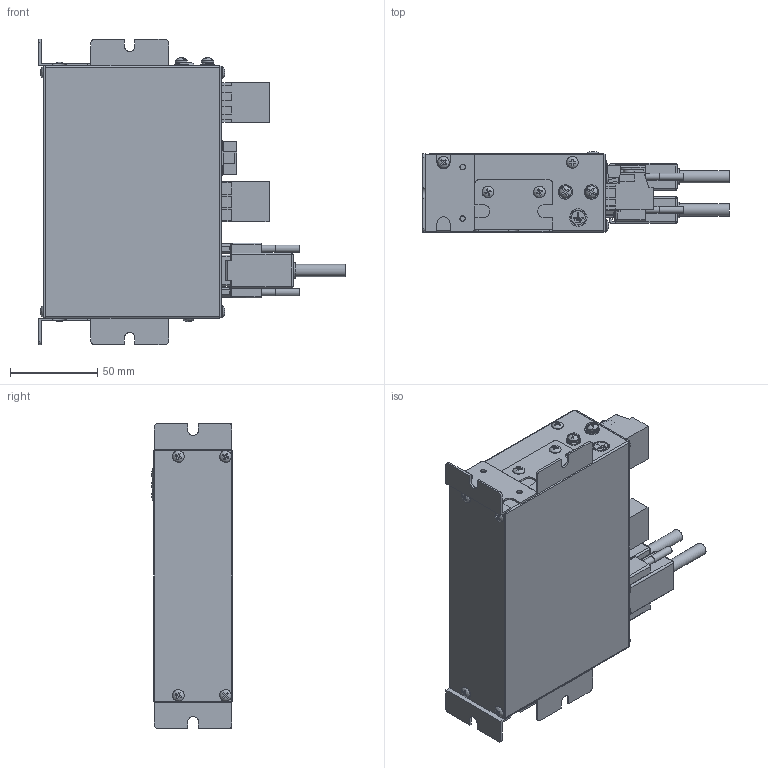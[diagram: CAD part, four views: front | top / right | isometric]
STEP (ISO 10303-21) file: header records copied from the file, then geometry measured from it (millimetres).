
FILE_DESCRIPTION (( 'STEP AP203' ), '1' );
FILE_NAME ('3D-01EV-000.STEP', '2017-05-10T06:05:00', ( '' ), ( '' ), 'SwSTEP 2.0', 'SolidWorks 2016', '' );
FILE_SCHEMA (( 'CONFIG_CONTROL_DESIGN' ));
Products named in the file (1): 3D-01EV-000
Bounding box: 175.77 x 46.28 x 175.2 mm (x, y, z)
Volume: 719760.4 mm3; surface area: 98019.6 mm2
Topology: 5 solids, 83 shells, 3085 faces, 7907 edges, 5234 vertices
Faces by surface type: plane 2244, bspline 427, cylinder 374, torus 27, sphere 13
Full cylindrical faces by diameter (mm): 0.99 x5, 1 x19, 1.09 x14, 1.1 x10, 2 x20, 2.3 x4, 2.5 x4, 2.84 x4, 3 x10, 3.1 x4, 3.2 x8, 3.3 x8, 3.6 x3, 3.7 x3, 4 x4, 4.2 x4, 4.3 x2, 4.5 x1, 4.6 x4, 5.195 x6, 5.25 x3, 5.3 x3, 6.454 x6, 6.5 x3, 7 x4, 8 x1, 8.2 x2, 8.6 x1, 9 x2, 10 x1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
Entity records: 128897 total; most frequent: CARTESIAN_POINT 58721, ORIENTED_EDGE 15104, DIRECTION 12435, EDGE_CURVE 7552, VECTOR 5639, LINE 5639, VERTEX_POINT 5089, EDGE_LOOP 3629
